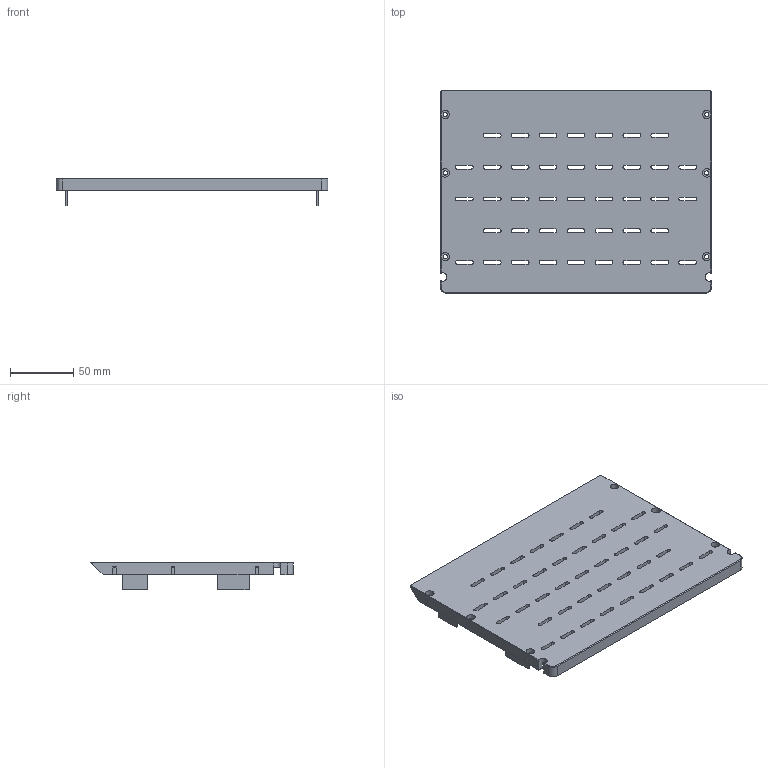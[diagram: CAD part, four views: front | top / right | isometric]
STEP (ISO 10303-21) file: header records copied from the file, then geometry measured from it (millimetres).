
FILE_DESCRIPTION(('Open CASCADE Model'),'2;1');
FILE_NAME('Open CASCADE Shape Model','2026-11-10T17:01:23',('Author'),( 'Open CASCADE'),'Open CASCADE STEP processor 7.9','Open CASCADE 7.9' ,'Unknown');
FILE_SCHEMA(('AUTOMOTIVE_DESIGN { 1 0 10303 214 1 1 1 1 }'));
Length unit declared in the file: millimetre
Products named in the file (2): T06_Lower_sensor_rear_cover; 01_Lower_sensor_rear_cover
Assembly tree (1 placements, depth 2):
  T06_Lower_sensor_rear_cover
    01_Lower_sensor_rear_cover
Bounding box: 214 x 159.55 x 21.69 mm (x, y, z)
Volume: 140181.6 mm3; surface area: 82384.3 mm2
Topology: 1 solids, 1 shells, 419 faces, 1235 edges, 822 vertices
Faces by surface type: plane 223, cylinder 194, cone 2
Full cylindrical faces by diameter (mm): 3.4 x6, 6.7 x6
Entity records: 30518 total; most frequent: CARTESIAN_POINT 5274, DIRECTION 4901, LINE 2874, VECTOR 2874, ORIENTED_EDGE 2470, PCURVE 2470, DEFINITIONAL_REPRESENTATION 2470, EDGE_CURVE 1235
